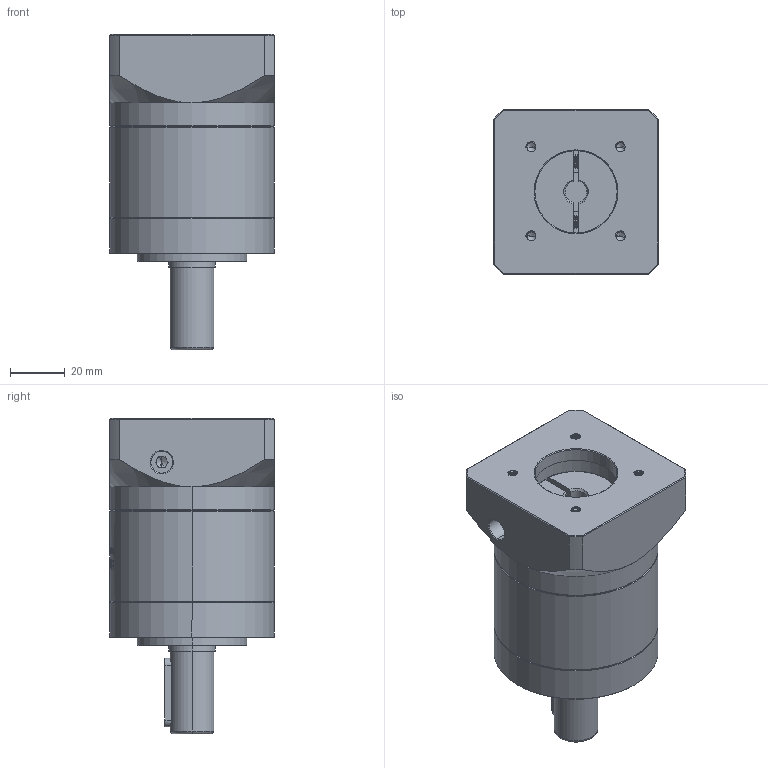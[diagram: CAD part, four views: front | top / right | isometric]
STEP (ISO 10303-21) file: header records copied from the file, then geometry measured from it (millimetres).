
FILE_DESCRIPTION (( 'STEP AP214' ), '1' );
FILE_NAME ('ZE060-D16-L1-P2-8-30-46-M4.step', '2023-08-17T02:05:54', ( '' ), ( '' ), 'SwSTEP 2.0', 'SolidWorks 2016', '' );
FILE_SCHEMA (( 'AUTOMOTIVE_DESIGN' ));
Length unit declared in the file: millimetre
Products named in the file (1): ZE060-D16-L1-P2-8-30-46-M4
Bounding box: 60 x 60 x 115 mm (x, y, z)
Volume: 221788 mm3; surface area: 43541.4 mm2
Topology: 6 solids, 6 shells, 1809 faces, 4932 edges, 3202 vertices
Faces by surface type: plane 782, cylinder 428, bspline 366, cone 215, torus 18
Entity records: 106829 total; most frequent: CARTESIAN_POINT 46080, ORIENTED_EDGE 9820, DIRECTION 6829, EDGE_CURVE 4910, VERTEX_POINT 3202, VECTOR 2449, LINE 2449, AXIS2_PLACEMENT_3D 2190
